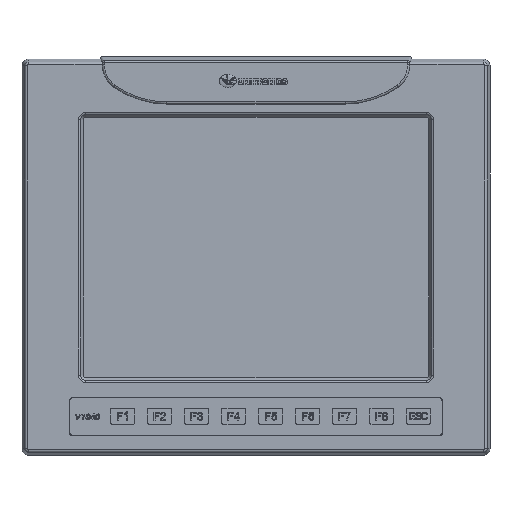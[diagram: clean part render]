
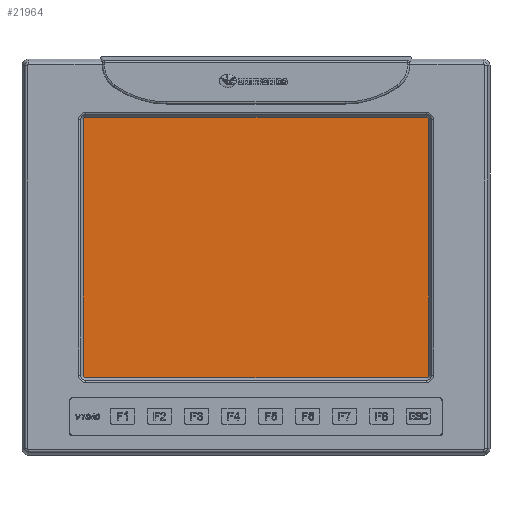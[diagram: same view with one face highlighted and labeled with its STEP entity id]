
A CAD part, top view. The second image highlights one B-rep face of the part: STEP entity #21964.
In plain terms, the highlighted planar face has unit normal (0, 0, 1).
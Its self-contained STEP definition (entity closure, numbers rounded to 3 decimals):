
#196 = CARTESIAN_POINT ( 'NONE',  ( -105., -43.597, -3.7 ) ) ;
#198 = VECTOR ( 'NONE', #222503, 1000. ) ;
#352 = CARTESIAN_POINT ( 'NONE',  ( -106.673, -41.924, -3.7 ) ) ;
#366 = DIRECTION ( 'NONE',  ( -1., 0., 0. ) ) ;
#368 = DIRECTION ( 'NONE',  ( 0., 0., -1. ) ) ;
#370 = CARTESIAN_POINT ( 'NONE',  ( -105., -41.924, -3.7 ) ) ;
#371 = AXIS2_PLACEMENT_3D ( 'NONE', #370, #368, #366 ) ;
#389 = CIRCLE ( 'NONE', #371, 1.673 ) ;
#618 = CARTESIAN_POINT ( 'NONE',  ( 105., -43.597, -3.7 ) ) ;
#623 = DIRECTION ( 'NONE',  ( 0., 0., -1. ) ) ;
#718 = CARTESIAN_POINT ( 'NONE',  ( -106.673, 115.576, -3.7 ) ) ;
#721 = DIRECTION ( 'NONE',  ( 0., 1., 0. ) ) ;
#724 = VECTOR ( 'NONE', #721, 1000. ) ;
#727 = CARTESIAN_POINT ( 'NONE',  ( -106.673, 115.576, -3.7 ) ) ;
#728 = LINE ( 'NONE', #727, #724 ) ;
#831 = CARTESIAN_POINT ( 'NONE',  ( -105., 117.249, -3.7 ) ) ;
#880 = CARTESIAN_POINT ( 'NONE',  ( 106.673, -41.924, -3.7 ) ) ;
#884 = DIRECTION ( 'NONE',  ( 0., -1., 0. ) ) ;
#886 = VECTOR ( 'NONE', #884, 1000. ) ;
#889 = CARTESIAN_POINT ( 'NONE',  ( 106.673, -41.924, -3.7 ) ) ;
#890 = LINE ( 'NONE', #889, #886 ) ;
#991 = CARTESIAN_POINT ( 'NONE',  ( 105., 117.249, -3.7 ) ) ;
#994 = DIRECTION ( 'NONE',  ( 1., 0., 0. ) ) ;
#997 = VECTOR ( 'NONE', #994, 1000. ) ;
#1000 = CARTESIAN_POINT ( 'NONE',  ( 105., 117.249, -3.7 ) ) ;
#1001 = LINE ( 'NONE', #1000, #997 ) ;
#1214 = DIRECTION ( 'NONE',  ( -1., 0., 0. ) ) ;
#1217 = DIRECTION ( 'NONE',  ( 0., 0., -1. ) ) ;
#1218 = CARTESIAN_POINT ( 'NONE',  ( 105., -41.924, -3.7 ) ) ;
#1221 = AXIS2_PLACEMENT_3D ( 'NONE', #1218, #1217, #1214 ) ;
#1224 = CIRCLE ( 'NONE', #1221, 1.673 ) ;
#1349 = CARTESIAN_POINT ( 'NONE',  ( 106.673, 115.576, -3.7 ) ) ;
#1351 = DIRECTION ( 'NONE',  ( -1., 0., 0. ) ) ;
#1355 = DIRECTION ( 'NONE',  ( 0., 0., -1. ) ) ;
#1358 = CARTESIAN_POINT ( 'NONE',  ( 105., 115.576, -3.7 ) ) ;
#1360 = AXIS2_PLACEMENT_3D ( 'NONE', #1358, #1355, #1351 ) ;
#1362 = CIRCLE ( 'NONE', #1360, 1.673 ) ;
#1498 = FACE_OUTER_BOUND ( 'NONE', #21865, .T. ) ;
#1627 = DIRECTION ( 'NONE',  ( -1., 0., 0. ) ) ;
#1630 = DIRECTION ( 'NONE',  ( 0., 0., -1. ) ) ;
#1633 = CARTESIAN_POINT ( 'NONE',  ( 134.72, -81.687, -3.7 ) ) ;
#1636 = AXIS2_PLACEMENT_3D ( 'NONE', #1633, #1630, #1627 ) ;
#1647 = PLANE ( 'NONE',  #1636 ) ;
#21305 = EDGE_CURVE ( 'NONE', #21508, #21307, #222506, .T. ) ;
#21307 = VERTEX_POINT ( 'NONE', #196 ) ;
#21437 = EDGE_CURVE ( 'NONE', #21307, #21440, #389, .T. ) ;
#21440 = VERTEX_POINT ( 'NONE', #352 ) ;
#21508 = VERTEX_POINT ( 'NONE', #618 ) ;
#21556 = EDGE_CURVE ( 'NONE', #21440, #21559, #728, .T. ) ;
#21559 = VERTEX_POINT ( 'NONE', #718 ) ;
#21599 = EDGE_CURVE ( 'NONE', #21559, #21601, #220661, .T. ) ;
#21601 = VERTEX_POINT ( 'NONE', #831 ) ;
#21651 = EDGE_CURVE ( 'NONE', #21822, #21655, #890, .T. ) ;
#21655 = VERTEX_POINT ( 'NONE', #880 ) ;
#21705 = EDGE_CURVE ( 'NONE', #21601, #21711, #1001, .T. ) ;
#21711 = VERTEX_POINT ( 'NONE', #991 ) ;
#21785 = EDGE_CURVE ( 'NONE', #21655, #21508, #1224, .T. ) ;
#21819 = EDGE_CURVE ( 'NONE', #21711, #21822, #1362, .T. ) ;
#21822 = VERTEX_POINT ( 'NONE', #1349 ) ;
#21865 = EDGE_LOOP ( 'NONE', ( #21973, #21980, #21986, #21997, #22000, #22005, #22013, #22106 ) ) ;
#21964 = ADVANCED_FACE ( 'NONE', ( #1498 ), #1647, .F. ) ;
#21973 = ORIENTED_EDGE ( 'NONE', *, *, #21785, .F. ) ;
#21980 = ORIENTED_EDGE ( 'NONE', *, *, #21651, .F. ) ;
#21986 = ORIENTED_EDGE ( 'NONE', *, *, #21819, .F. ) ;
#21997 = ORIENTED_EDGE ( 'NONE', *, *, #21705, .F. ) ;
#22000 = ORIENTED_EDGE ( 'NONE', *, *, #21599, .F. ) ;
#22005 = ORIENTED_EDGE ( 'NONE', *, *, #21556, .F. ) ;
#22013 = ORIENTED_EDGE ( 'NONE', *, *, #21437, .F. ) ;
#22106 = ORIENTED_EDGE ( 'NONE', *, *, #21305, .F. ) ;
#218974 = DIRECTION ( 'NONE',  ( -1., 0., 0. ) ) ;
#220661 = CIRCLE ( 'NONE', #221475, 1.673 ) ;
#221466 = CARTESIAN_POINT ( 'NONE',  ( -105., 115.576, -3.7 ) ) ;
#221475 = AXIS2_PLACEMENT_3D ( 'NONE', #221466, #623, #218974 ) ;
#222503 = DIRECTION ( 'NONE',  ( -1., 0., 0. ) ) ;
#222505 = CARTESIAN_POINT ( 'NONE',  ( -105., -43.597, -3.7 ) ) ;
#222506 = LINE ( 'NONE', #222505, #198 ) ;
